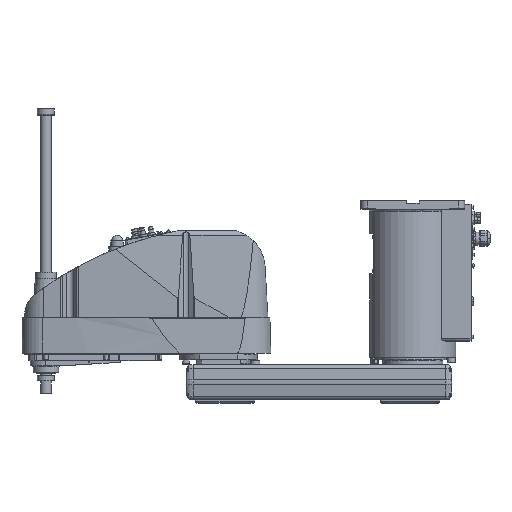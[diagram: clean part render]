
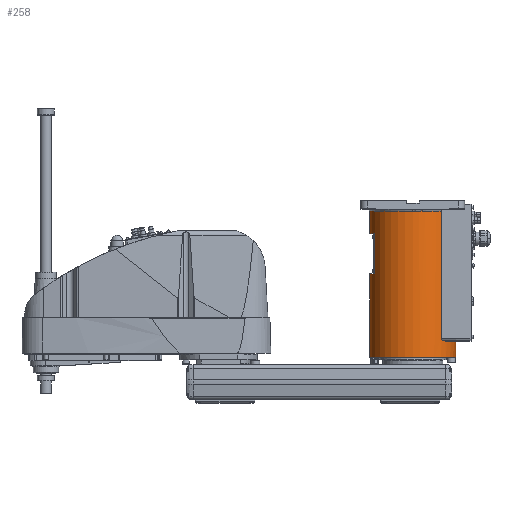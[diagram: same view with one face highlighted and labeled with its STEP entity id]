
A CAD part, top view. The second image highlights one B-rep face of the part: STEP entity #258.
In plain terms, the highlighted cylindrical face has radius 100 mm (diameter 200 mm), a partial arc.
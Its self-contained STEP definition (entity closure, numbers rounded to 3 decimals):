
#258 = ADVANCED_FACE( '', ( #2069 ), #2070, .T. );
#2069 = FACE_OUTER_BOUND( '', #5900, .T. );
#2070 = CYLINDRICAL_SURFACE( '', #5901, 100. );
#5900 = EDGE_LOOP( '', ( #9925, #9926, #9927, #9928, #9929, #9930, #9931, #9932, #9933, #9934, #9935, #9936, #9937, #9938, #9939, #9940 ) );
#5901 = AXIS2_PLACEMENT_3D( '', #9941, #9942, #9943 );
#9925 = ORIENTED_EDGE( '', *, *, #23701, .F. );
#9926 = ORIENTED_EDGE( '', *, *, #23702, .T. );
#9927 = ORIENTED_EDGE( '', *, *, #23703, .T. );
#9928 = ORIENTED_EDGE( '', *, *, #23704, .T. );
#9929 = ORIENTED_EDGE( '', *, *, #23705, .T. );
#9930 = ORIENTED_EDGE( '', *, *, #23706, .T. );
#9931 = ORIENTED_EDGE( '', *, *, #23707, .T. );
#9932 = ORIENTED_EDGE( '', *, *, #23708, .T. );
#9933 = ORIENTED_EDGE( '', *, *, #23709, .T. );
#9934 = ORIENTED_EDGE( '', *, *, #23710, .T. );
#9935 = ORIENTED_EDGE( '', *, *, #23711, .F. );
#9936 = ORIENTED_EDGE( '', *, *, #23712, .T. );
#9937 = ORIENTED_EDGE( '', *, *, #23713, .T. );
#9938 = ORIENTED_EDGE( '', *, *, #23714, .T. );
#9939 = ORIENTED_EDGE( '', *, *, #23715, .F. );
#9940 = ORIENTED_EDGE( '', *, *, #23716, .F. );
#9941 = CARTESIAN_POINT( '', ( 0., 194., 0. ) );
#9942 = DIRECTION( '', ( 0., 1., 0. ) );
#9943 = DIRECTION( '', ( 1., 0., 0. ) );
#23701 = EDGE_CURVE( '', #28145, #28146, #28147, .T. );
#23702 = EDGE_CURVE( '', #28145, #28148, #28149, .T. );
#23703 = EDGE_CURVE( '', #28148, #28150, #28151, .T. );
#23704 = EDGE_CURVE( '', #28150, #28152, #28153, .T. );
#23705 = EDGE_CURVE( '', #28152, #28154, #28155, .T. );
#23706 = EDGE_CURVE( '', #28154, #28156, #28157, .T. );
#23707 = EDGE_CURVE( '', #28156, #28158, #28159, .T. );
#23708 = EDGE_CURVE( '', #28158, #28160, #28161, .T. );
#23709 = EDGE_CURVE( '', #28160, #28162, #28163, .T. );
#23710 = EDGE_CURVE( '', #28162, #28164, #28165, .T. );
#23711 = EDGE_CURVE( '', #28166, #28164, #28167, .T. );
#23712 = EDGE_CURVE( '', #28166, #28168, #28169, .T. );
#23713 = EDGE_CURVE( '', #28168, #28170, #28171, .T. );
#23714 = EDGE_CURVE( '', #28170, #28172, #28173, .T. );
#23715 = EDGE_CURVE( '', #28174, #28172, #28175, .T. );
#23716 = EDGE_CURVE( '', #28146, #28174, #28176, .T. );
#28145 = VERTEX_POINT( '', #35309 );
#28146 = VERTEX_POINT( '', #35310 );
#28147 = LINE( '', #35311, #35312 );
#28148 = VERTEX_POINT( '', #35313 );
#28149 = CIRCLE( '', #35314, 100. );
#28150 = VERTEX_POINT( '', #35315 );
#28151 = LINE( '', #35316, #35317 );
#28152 = VERTEX_POINT( '', #35318 );
#28153 = CIRCLE( '', #35319, 100. );
#28154 = VERTEX_POINT( '', #35320 );
#28155 = LINE( '', #35321, #35322 );
#28156 = VERTEX_POINT( '', #35323 );
#28157 = CIRCLE( '', #35324, 100. );
#28158 = VERTEX_POINT( '', #35325 );
#28159 = B_SPLINE_CURVE_WITH_KNOTS( '', 3, ( #35326, #35327, #35328, #35329, #35330, #35331, #35332, #35333, #35334, #35335, #35336, #35337, #35338, #35339, #35340, #35341, #35342, #35343 ), .UNSPECIFIED., .F., .F., ( 4, 2, 2, 2, 2, 2, 2, 2, 4 ), ( -7.48, -6.36, -5.24, -4.12, -3., -2.25, -1.5, -0.75, 0. ), .UNSPECIFIED. );
#28160 = VERTEX_POINT( '', #35344 );
#28161 = LINE( '', #35345, #35346 );
#28162 = VERTEX_POINT( '', #35347 );
#28163 = CIRCLE( '', #35348, 100. );
#28164 = VERTEX_POINT( '', #35349 );
#28165 = CIRCLE( '', #35350, 100. );
#28166 = VERTEX_POINT( '', #35351 );
#28167 = LINE( '', #35352, #35353 );
#28168 = VERTEX_POINT( '', #35354 );
#28169 = CIRCLE( '', #35355, 100. );
#28170 = VERTEX_POINT( '', #35356 );
#28171 = LINE( '', #35357, #35358 );
#28172 = VERTEX_POINT( '', #35359 );
#28173 = CIRCLE( '', #35360, 100. );
#28174 = VERTEX_POINT( '', #35361 );
#28175 = LINE( '', #35362, #35363 );
#28176 = CIRCLE( '', #35364, 100. );
#35309 = CARTESIAN_POINT( '', ( 100., 64., 0. ) );
#35310 = CARTESIAN_POINT( '', ( 100., 25., 0. ) );
#35311 = CARTESIAN_POINT( '', ( 100., 194., 0. ) );
#35312 = VECTOR( '', #46710, 1. );
#35313 = CARTESIAN_POINT( '', ( 89.303, 64., 45. ) );
#35314 = AXIS2_PLACEMENT_3D( '', #46711, #46712, #46713 );
#35315 = CARTESIAN_POINT( '', ( 89.303, 62., 45. ) );
#35316 = CARTESIAN_POINT( '', ( 89.303, 63., 45. ) );
#35317 = VECTOR( '', #46714, 1. );
#35318 = CARTESIAN_POINT( '', ( 75.993, 62., 65. ) );
#35319 = AXIS2_PLACEMENT_3D( '', #46715, #46716, #46717 );
#35320 = CARTESIAN_POINT( '', ( 75.993, 64., 65. ) );
#35321 = CARTESIAN_POINT( '', ( 75.993, 63., 65. ) );
#35322 = VECTOR( '', #46718, 1. );
#35323 = CARTESIAN_POINT( '', ( 70.42, 64., 71. ) );
#35324 = AXIS2_PLACEMENT_3D( '', #46719, #46720, #46721 );
#35325 = CARTESIAN_POINT( '', ( 66.144, 68., 75. ) );
#35326 = CARTESIAN_POINT( '', ( 70.42, 64., 71. ) );
#35327 = CARTESIAN_POINT( '', ( 70.155, 64., 71.263 ) );
#35328 = CARTESIAN_POINT( '', ( 69.877, 64.026, 71.535 ) );
#35329 = CARTESIAN_POINT( '', ( 69.316, 64.139, 72.08 ) );
#35330 = CARTESIAN_POINT( '', ( 69.031, 64.224, 72.352 ) );
#35331 = CARTESIAN_POINT( '', ( 68.475, 64.457, 72.879 ) );
#35332 = CARTESIAN_POINT( '', ( 68.203, 64.604, 73.134 ) );
#35333 = CARTESIAN_POINT( '', ( 67.688, 64.954, 73.61 ) );
#35334 = CARTESIAN_POINT( '', ( 67.446, 65.158, 73.831 ) );
#35335 = CARTESIAN_POINT( '', ( 67.082, 65.542, 74.162 ) );
#35336 = CARTESIAN_POINT( '', ( 66.938, 65.716, 74.292 ) );
#35337 = CARTESIAN_POINT( '', ( 66.674, 66.103, 74.529 ) );
#35338 = CARTESIAN_POINT( '', ( 66.555, 66.315, 74.636 ) );
#35339 = CARTESIAN_POINT( '', ( 66.356, 66.766, 74.812 ) );
#35340 = CARTESIAN_POINT( '', ( 66.277, 67.005, 74.882 ) );
#35341 = CARTESIAN_POINT( '', ( 66.171, 67.497, 74.976 ) );
#35342 = CARTESIAN_POINT( '', ( 66.144, 67.75, 75. ) );
#35343 = CARTESIAN_POINT( '', ( 66.144, 68., 75. ) );
#35344 = CARTESIAN_POINT( '', ( 66.144, 363., 75. ) );
#35345 = CARTESIAN_POINT( '', ( 66.144, 215.5, 75. ) );
#35346 = VECTOR( '', #46722, 1. );
#35347 = CARTESIAN_POINT( '', ( 0., 363., 100. ) );
#35348 = AXIS2_PLACEMENT_3D( '', #46723, #46724, #46725 );
#35349 = CARTESIAN_POINT( '', ( -100., 363., 0. ) );
#35350 = AXIS2_PLACEMENT_3D( '', #46726, #46727, #46728 );
#35351 = CARTESIAN_POINT( '', ( -100., 311.3, 0. ) );
#35352 = CARTESIAN_POINT( '', ( -100., 194., 0. ) );
#35353 = VECTOR( '', #46729, 1. );
#35354 = CARTESIAN_POINT( '', ( -88., 311.3, 47.497 ) );
#35355 = AXIS2_PLACEMENT_3D( '', #46730, #46731, #46732 );
#35356 = CARTESIAN_POINT( '', ( -88., 218.3, 47.497 ) );
#35357 = CARTESIAN_POINT( '', ( -88., 264.8, 47.497 ) );
#35358 = VECTOR( '', #46733, 1. );
#35359 = CARTESIAN_POINT( '', ( -100., 218.3, 0. ) );
#35360 = AXIS2_PLACEMENT_3D( '', #46734, #46735, #46736 );
#35361 = CARTESIAN_POINT( '', ( -100., 25., 0. ) );
#35362 = CARTESIAN_POINT( '', ( -100., 194., 0. ) );
#35363 = VECTOR( '', #46737, 1. );
#35364 = AXIS2_PLACEMENT_3D( '', #46738, #46739, #46740 );
#46710 = DIRECTION( '', ( 0., -1., 0. ) );
#46711 = CARTESIAN_POINT( '', ( 0., 64., 0. ) );
#46712 = DIRECTION( '', ( 0., -1., 0. ) );
#46713 = DIRECTION( '', ( 1., 0., 0. ) );
#46714 = DIRECTION( '', ( 0., -1., 0. ) );
#46715 = CARTESIAN_POINT( '', ( 0., 62., 0. ) );
#46716 = DIRECTION( '', ( 0., -1., 0. ) );
#46717 = DIRECTION( '', ( 1., 0., 0. ) );
#46718 = DIRECTION( '', ( 0., 1., 0. ) );
#46719 = CARTESIAN_POINT( '', ( 0., 64., 0. ) );
#46720 = DIRECTION( '', ( 0., -1., 0. ) );
#46721 = DIRECTION( '', ( 1., 0., 0. ) );
#46722 = DIRECTION( '', ( 0., 1., 0. ) );
#46723 = CARTESIAN_POINT( '', ( 0., 363., 0. ) );
#46724 = DIRECTION( '', ( 0., -1., 0. ) );
#46725 = DIRECTION( '', ( 1., 0., 0. ) );
#46726 = CARTESIAN_POINT( '', ( 0., 363., 0. ) );
#46727 = DIRECTION( '', ( 0., -1., 0. ) );
#46728 = DIRECTION( '', ( 1., 0., 0. ) );
#46729 = DIRECTION( '', ( 0., 1., 0. ) );
#46730 = CARTESIAN_POINT( '', ( 0., 311.3, 0. ) );
#46731 = DIRECTION( '', ( 0., 1., 0. ) );
#46732 = DIRECTION( '', ( 1., 0., 0. ) );
#46733 = DIRECTION( '', ( 0., -1., 0. ) );
#46734 = CARTESIAN_POINT( '', ( 0., 218.3, 0. ) );
#46735 = DIRECTION( '', ( 0., -1., 0. ) );
#46736 = DIRECTION( '', ( 1., 0., 0. ) );
#46737 = DIRECTION( '', ( 0., 1., 0. ) );
#46738 = CARTESIAN_POINT( '', ( 0., 25., 0. ) );
#46739 = DIRECTION( '', ( 0., -1., 0. ) );
#46740 = DIRECTION( '', ( 1., 0., 0. ) );
